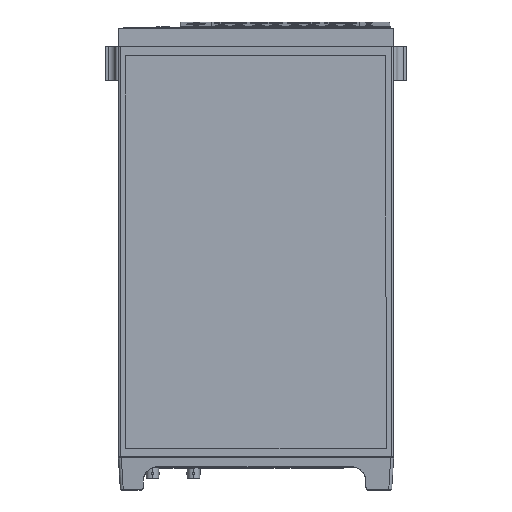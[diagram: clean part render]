
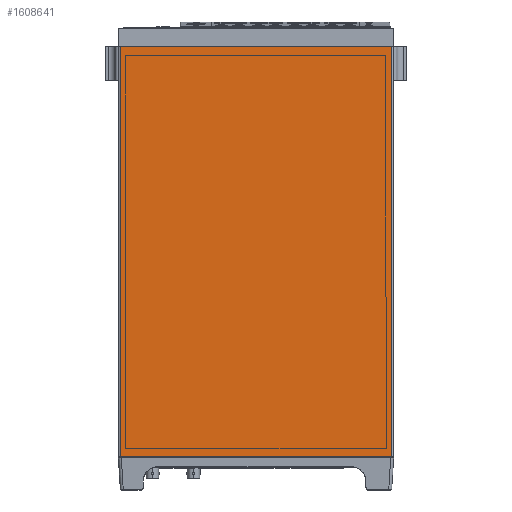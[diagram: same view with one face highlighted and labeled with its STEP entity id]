
A CAD part, front view. The second image highlights one B-rep face of the part: STEP entity #1608641.
In plain terms, the highlighted planar face has unit normal (0, -1, 0) as drawn and (0, 1, 0) by its records, which use the part's own axes.
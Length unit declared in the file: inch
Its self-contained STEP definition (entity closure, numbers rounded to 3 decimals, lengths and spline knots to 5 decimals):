
#1606958=DIRECTION('',(-1.,0.,0.));
#1606959=VECTOR('',#1606958,8.31);
#1606960=CARTESIAN_POINT('',(7.81,3.42,0.));
#1606961=LINE('',#1606960,#1606959);
#1607162=DIRECTION('',(-1.,0.,0.));
#1607163=VECTOR('',#1607162,8.31);
#1607164=CARTESIAN_POINT('',(7.81,3.42,12.55));
#1607165=LINE('',#1607164,#1607163);
#1607354=DIRECTION('',(0.,0.,1.));
#1607355=VECTOR('',#1607354,12.55);
#1607356=CARTESIAN_POINT('',(7.81,3.42,0.));
#1607357=LINE('',#1607356,#1607355);
#1607381=DIRECTION('',(0.,0.,1.));
#1607382=VECTOR('',#1607381,12.55);
#1607383=CARTESIAN_POINT('',(-0.5,3.42,0.));
#1607384=LINE('',#1607383,#1607382);
#1607930=CARTESIAN_POINT('',(7.81,3.42,0.));
#1607931=CARTESIAN_POINT('',(7.81,3.42,12.55));
#1607932=VERTEX_POINT('',#1607930);
#1607933=VERTEX_POINT('',#1607931);
#1607950=CARTESIAN_POINT('',(-0.5,3.42,0.));
#1607951=CARTESIAN_POINT('',(-0.5,3.42,12.55));
#1607952=VERTEX_POINT('',#1607950);
#1607953=VERTEX_POINT('',#1607951);
#1608629=CARTESIAN_POINT('',(7.86,3.42,0.));
#1608630=DIRECTION('',(0.,1.,0.));
#1608631=DIRECTION('',(-1.,0.,0.));
#1608632=AXIS2_PLACEMENT_3D('',#1608629,#1608630,#1608631);
#1608633=PLANE('',#1608632);
#1608634=ORIENTED_EDGE('',*,*,#1608085,.F.);
#1608635=ORIENTED_EDGE('',*,*,#1608621,.T.);
#1608636=ORIENTED_EDGE('',*,*,#1608367,.T.);
#1608638=ORIENTED_EDGE('',*,*,#1608637,.F.);
#1608639=EDGE_LOOP('',(#1608634,#1608635,#1608636,#1608638));
#1608640=FACE_OUTER_BOUND('',#1608639,.F.);
#1608085=EDGE_CURVE('',#1607932,#1607952,#1606961,.T.);
#1608367=EDGE_CURVE('',#1607933,#1607953,#1607165,.T.);
#1608621=EDGE_CURVE('',#1607932,#1607933,#1607357,.T.);
#1608637=EDGE_CURVE('',#1607952,#1607953,#1607384,.T.);
#1608641=ADVANCED_FACE('',(#1608640),#1608633,.T.);
